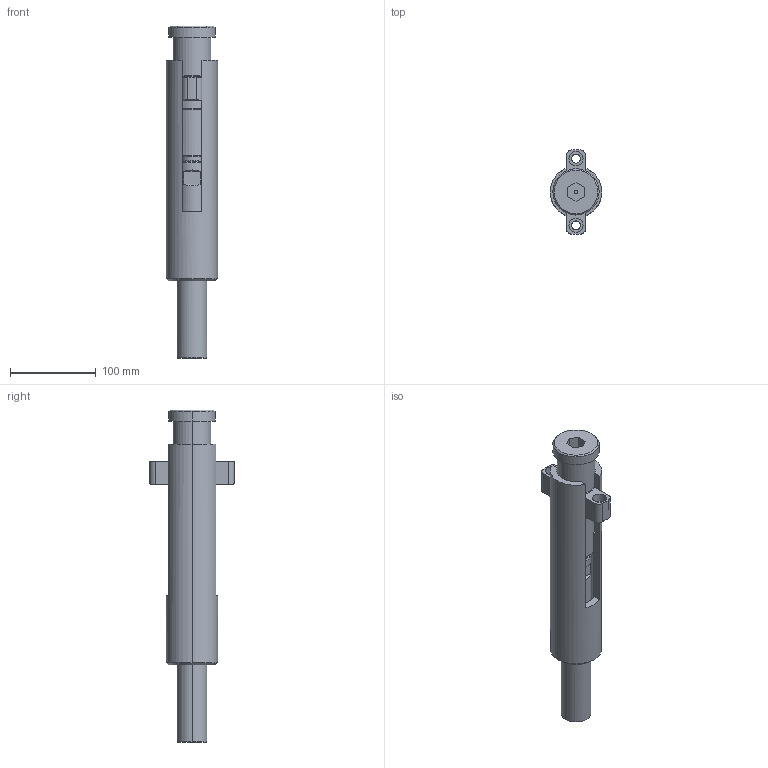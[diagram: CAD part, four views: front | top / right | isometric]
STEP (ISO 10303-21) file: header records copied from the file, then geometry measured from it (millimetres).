
FILE_DESCRIPTION (( 'STEP AP203' ), '1' );
FILE_NAME ('DKL6021.STEP', '2013-08-26T11:50:59', ( '' ), ( '' ), 'SwSTEP 2.0', 'SolidWorks 2013', '' );
FILE_SCHEMA (( 'CONFIG_CONTROL_DESIGN' ));
Length unit declared in the file: millimetre
Products named in the file (9): DKL6_11; DKL6021; DKL6_31; DKL6_62; DKL6_51; DKL6_21; DKL6_41 short; DKL6_81; DKL6_72
Assembly tree (11 placements, depth 2):
  DKL6021
    DKL6_31
    DKL6_62  x4
    DKL6_51
    DKL6_21
    DKL6_41 short
    DKL6_81
    DKL6_72
    DKL6_11
Bounding box: 60 x 98.94 x 388 mm (x, y, z)
Volume: 738960.2 mm3; surface area: 170732.7 mm2
Topology: 11 solids, 11 shells, 433 faces, 1035 edges, 636 vertices
Faces by surface type: plane 142, cylinder 136, cone 104, torus 49, bspline 2
Entity records: 15060 total; most frequent: CARTESIAN_POINT 5581, DIRECTION 1910, ORIENTED_EDGE 1686, EDGE_CURVE 843, AXIS2_PLACEMENT_3D 775, VERTEX_POINT 525, CIRCLE 408, EDGE_LOOP 400
